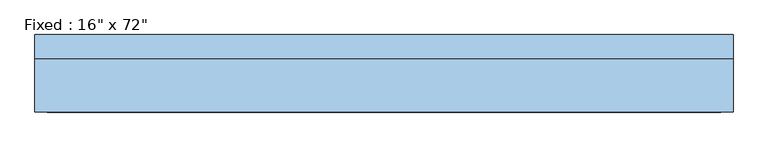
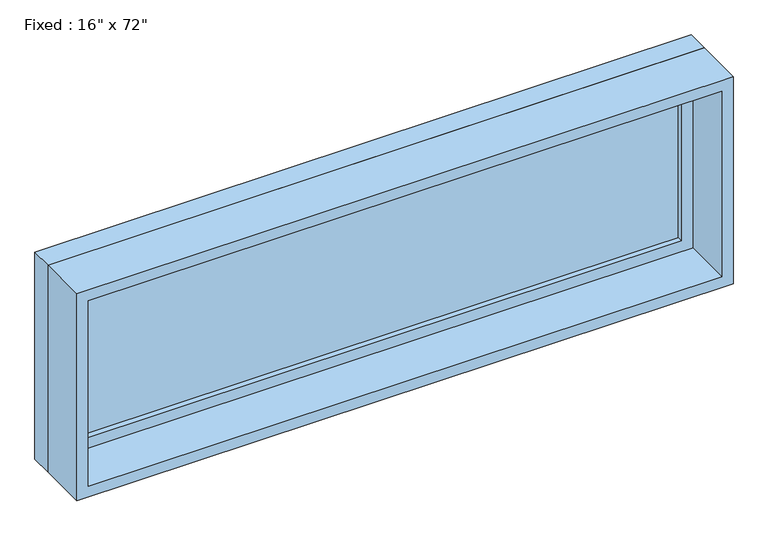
"""IFC4 building model written with IfcOpenShell, lengths in millimetres: window geometry."""

from ifc_helpers import new_model, si_unit, frame, origin, place, context, project, spatial, polyline, outline, extrude, source, transform, mapped, element, save


def window_087ade2b(model_context):
    return source(origin(), model_context, "Body", "SweptSolid", [
        extrude(outline(polyline([(812.8, 53.975), (-889.0, 53.975), (-889.0, 66.675), (812.8, 66.675), (812.8, 53.975)])), frame((0.0, 0.0, 368.3), z_axis=(0.0, 0.0, 1.0), x_axis=(1.0, 0.0, 0.0)), (0.0, 0.0, 1.0), 482.6),
        extrude(outline(polyline([(895.35, -933.45), (323.85, -933.45), (323.85, 857.25), (895.35, 857.25), (895.35, -933.45)]), holes=[polyline([(850.9, -889.0), (850.9, 812.8), (368.3, 812.8), (368.3, -889.0), (850.9, -889.0)])]), frame((0.0, 38.1, 0.0), z_axis=(0.0, 1.0, 0.0), x_axis=(0.0, 0.0, 1.0)), (0.0, 0.0, 1.0), 44.45),
        extrude(outline(polyline([(914.4, -952.5), (304.8, -952.5), (304.8, 876.3), (914.4, 876.3), (914.4, -952.5)]), holes=[polyline([(882.65, -920.75), (882.65, 844.55), (336.55, 844.55), (336.55, -920.75), (882.65, -920.75)])]), frame((0.0, -101.6, 0.0), z_axis=(0.0, 1.0, 0.0), x_axis=(0.0, 0.0, 1.0)), (0.0, 0.0, 1.0), 139.7),
        extrude(outline(polyline([(914.4, 876.3), (914.4, -952.5), (304.8, -952.5), (304.8, 876.3), (914.4, 876.3)]), holes=[polyline([(895.35, 857.25), (323.85, 857.25), (323.85, -933.45), (895.35, -933.45), (895.35, 857.25)])]), frame((0.0, 38.1, 0.0), z_axis=(0.0, 1.0, 0.0), x_axis=(0.0, 0.0, 1.0)), (0.0, 0.0, 1.0), 63.5),
    ])


if __name__ == "__main__":
    model = new_model("IFC4")
    model_context = context("Model", 3, world=origin())
    ifc_project = project(units=[si_unit("LENGTHUNIT", "METRE", prefix="MILLI")], contexts=[model_context])
    site = spatial("IfcSite", under=ifc_project)
    building = spatial("IfcBuilding", under=site)
    placement = place(None, origin())
    window_shape = window_087ade2b(model_context)
    element("IfcWindow", 1, ObjectType="Fixed : 16\" x 72\"", at=placement, inside=building, context=model_context, shape_type="MappedRepresentation", body=[
        mapped(window_shape, transform((0.0, 0.0, 0.0), x_axis=(1.0, 0.0, 0.0), y_axis=(0.0, 1.0, 0.0), z_axis=(0.0, 0.0, 1.0))),
    ])
    save(model, "model.ifc")
